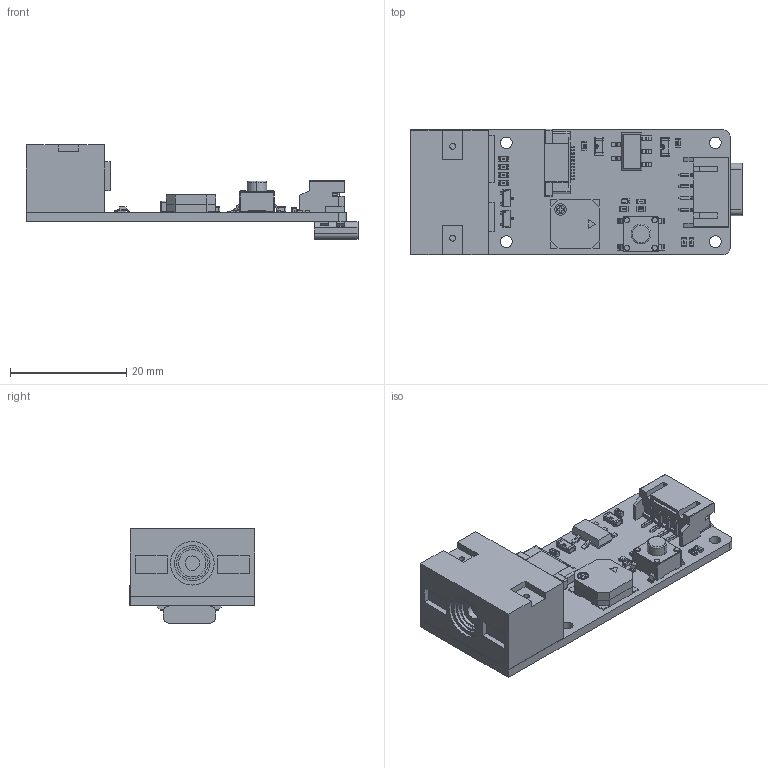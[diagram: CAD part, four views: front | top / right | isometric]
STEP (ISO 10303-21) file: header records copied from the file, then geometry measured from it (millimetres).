
FILE_DESCRIPTION(/* description */ (''),/* implementation_level */ '2;1');
FILE_NAME(/* name */ 'Barcode Scanner Module V1.2_step.prt_stp.prt.stp',/* time_stamp */ '2025-08-22T10:23:34+08:00',/* author */ (''),/* organization */ (''),/* preprocessor_version */ 'ST-DEVELOPER v16.7',/* originating_system */ 'SIEMENS PLM Software NX 12.0',/* authorisation */ '');
FILE_SCHEMA (('AUTOMOTIVE_DESIGN { 1 0 10303 214 3 1 1 1 }'));
Products named in the file (75): 3_1_200; 1_1_2_A; 2_1_200; PH2_0_SMD-W__1_200; User_Library-LED_0603_R_Pad; User_Library-LED_0603_R_Pocket001; User_Library-LED_0603_R_Fillet; User_Library-LED_0603_R_Pad004; User_Library-LED_0603_R_Pocket002; User_Library-TO-223_5_1; User_Library-TO-223_4_1; User_Library-TO-223_3_1; User_Library-TO-223_2_1; User_Library-TO-223_1_1; LOGO_63963; R_060358499; Pin4Body; Pin3Body; Pin2Body; Pin1Body; Plate6Body; Plate5Body; Plate4Body; Plate3Body; Plate2Body; Plate1Body; MembraneBody; CoverBody; CaseBody; C_060313701; LOGO_; 6x6_touch_switch; SOT23-3; 6224663456; fpc-12p-1; C1206; SOD123; Open CASCADE STEP translator 6.8 2.1.1; TPC; WUKUIA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
Assembly tree (88 placements, depth 8):
  Barcode Scanner Module V1.2_step.prt_stp
    Board
      Open CASCADE STEP translator 6.8 2.1.1
    D1
      SOD123
    C1
      C1206
    C2
      C_0603
        LOGO_
        C_060313701
    C3
      C1206
    C4
      C_0603
        LOGO_
        C_060313701
    C5
      C_0603
        LOGO_
        C_060313701
    J2
      PH2_0-4PWB
        Designator14
          PH2.0_SMD-W-4P
            PH2_0_SMD-W-4P-3839_AF0_ASM
              PH2_0_SMD-W-4P-13253_AF0_ASM
                2_1_200
                1_1_2_A
                3_1_200
              PH2_0_SMD-W__1_200  x4
    J3
      fpc-12p-1
    LS1
      CMT-8503-87_90
        CaseBody
        CoverBody
        MembraneBody
        Plate1Body
        Plate2Body
        Plate3Body
        Plate4Body
        Plate5Body
        Plate6Body
        Pin1Body
        Pin2Body
        Pin3Body
        Pin4Body
    R1
      R_0603
        R_060358499
        LOGO_63963
    R2
      R_0603
        R_060358499
        LOGO_63963
    R3
      R_0603
        R_060358499
        LOGO_63963
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Bounding box: 57.15 x 21.65 x 16.3 mm (x, y, z)
Volume: 5915.1 mm3; surface area: 6643.4 mm2
Topology: 230 solids, 230 shells, 4293 faces, 10659 edges, 6946 vertices
Faces by surface type: plane 2551, bspline 956, cylinder 696, sphere 48, torus 42
Full cylindrical faces by diameter (mm): 1 x2, 1.4 x2, 2 x4, 2.5 x1, 4.7 x1, 5.4 x1, 6.1 x1, 7.5 x1
Entity records: 80563 total; most frequent: CARTESIAN_POINT 21671, ORIENTED_EDGE 11110, DIRECTION 9725, EDGE_CURVE 5555, LINE 4165, VECTOR 4165, VERTEX_POINT 3624, AXIS2_PLACEMENT_3D 2780
